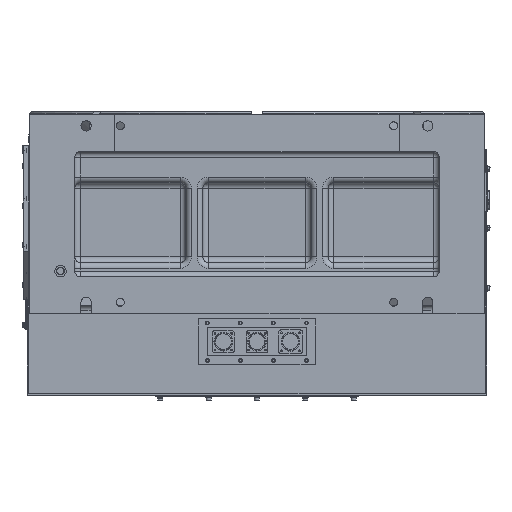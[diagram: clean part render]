
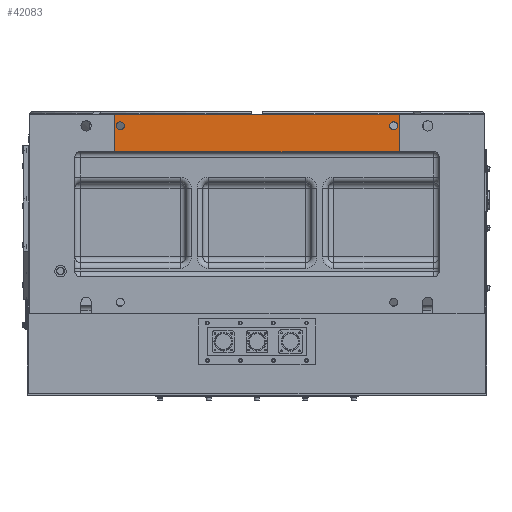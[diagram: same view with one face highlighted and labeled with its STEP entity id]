
A CAD part, front view. The second image highlights one B-rep face of the part: STEP entity #42083.
In plain terms, the highlighted planar face has unit normal (0, -1, 0).
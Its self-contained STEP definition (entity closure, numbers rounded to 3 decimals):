
#881 = DIRECTION ( 'NONE',  ( 0., 1., 0. ) ) ;
#1265 = DIRECTION ( 'NONE',  ( 0., 1., 0. ) ) ;
#1551 = EDGE_CURVE ( 'NONE', #19378, #10835, #24897, .T. ) ;
#3420 = LINE ( 'NONE', #15493, #7162 ) ;
#3483 = AXIS2_PLACEMENT_3D ( 'NONE', #32209, #44332, #24600 ) ;
#5796 = CARTESIAN_POINT ( 'NONE',  ( -240., -479.5, 28. ) ) ;
#6639 = CARTESIAN_POINT ( 'NONE',  ( 250., -479.5, 55. ) ) ;
#7162 = VECTOR ( 'NONE', #19960, 1000. ) ;
#7208 = CARTESIAN_POINT ( 'NONE',  ( 250., -479.5, -15. ) ) ;
#7321 = LINE ( 'NONE', #15724, #51588 ) ;
#7862 = CIRCLE ( 'NONE', #23811, 7. ) ;
#8959 = EDGE_CURVE ( 'NONE', #38344, #32236, #26850, .T. ) ;
#9067 = PLANE ( 'NONE',  #3483 ) ;
#9408 = DIRECTION ( 'NONE',  ( 0., 0., 1. ) ) ;
#9693 = CARTESIAN_POINT ( 'NONE',  ( -250., -479.5, 55. ) ) ;
#9804 = AXIS2_PLACEMENT_3D ( 'NONE', #33064, #1265, #9408 ) ;
#10354 = ORIENTED_EDGE ( 'NONE', *, *, #8959, .F. ) ;
#10798 = DIRECTION ( 'NONE',  ( -1., 0., 0. ) ) ;
#10835 = VERTEX_POINT ( 'NONE', #42108 ) ;
#11913 = DIRECTION ( 'NONE',  ( 0., 0., 1. ) ) ;
#12044 = EDGE_CURVE ( 'NONE', #32236, #37536, #3420, .T. ) ;
#12368 = DIRECTION ( 'NONE',  ( 0., 1., 0. ) ) ;
#15445 = VERTEX_POINT ( 'NONE', #5796 ) ;
#15493 = CARTESIAN_POINT ( 'NONE',  ( -250., -479.5, -15. ) ) ;
#15724 = CARTESIAN_POINT ( 'NONE',  ( -250., -479.5, 55. ) ) ;
#16070 = ORIENTED_EDGE ( 'NONE', *, *, #43771, .T. ) ;
#16177 = FACE_OUTER_BOUND ( 'NONE', #41803, .T. ) ;
#17763 = ORIENTED_EDGE ( 'NONE', *, *, #12044, .F. ) ;
#17865 = EDGE_LOOP ( 'NONE', ( #18341, #47713 ) ) ;
#18341 = ORIENTED_EDGE ( 'NONE', *, *, #1551, .T. ) ;
#18434 = VECTOR ( 'NONE', #10798, 1000. ) ;
#19378 = VERTEX_POINT ( 'NONE', #33749 ) ;
#19823 = DIRECTION ( 'NONE',  ( 0., 0., 1. ) ) ;
#19960 = DIRECTION ( 'NONE',  ( 0., 0., 1. ) ) ;
#21665 = EDGE_CURVE ( 'NONE', #15445, #41397, #7862, .T. ) ;
#22168 = ORIENTED_EDGE ( 'NONE', *, *, #30293, .T. ) ;
#22578 = CARTESIAN_POINT ( 'NONE',  ( -240., -479.5, 42. ) ) ;
#23431 = VECTOR ( 'NONE', #19823, 1000. ) ;
#23811 = AXIS2_PLACEMENT_3D ( 'NONE', #27634, #12368, #23951 ) ;
#23951 = DIRECTION ( 'NONE',  ( 0., 0., 1. ) ) ;
#24600 = DIRECTION ( 'NONE',  ( 0., 0., 1. ) ) ;
#24830 = EDGE_CURVE ( 'NONE', #10835, #19378, #33302, .T. ) ;
#24897 = CIRCLE ( 'NONE', #9804, 7. ) ;
#25848 = CARTESIAN_POINT ( 'NONE',  ( -250., -479.5, -10. ) ) ;
#26850 = LINE ( 'NONE', #46852, #18434 ) ;
#27634 = CARTESIAN_POINT ( 'NONE',  ( -240., -479.5, 35. ) ) ;
#27684 = EDGE_CURVE ( 'NONE', #38344, #47274, #47472, .T. ) ;
#28329 = DIRECTION ( 'NONE',  ( 0., 1., 0. ) ) ;
#30293 = EDGE_CURVE ( 'NONE', #47274, #37536, #7321, .T. ) ;
#32209 = CARTESIAN_POINT ( 'NONE',  ( -250., -479.5, -15. ) ) ;
#32236 = VERTEX_POINT ( 'NONE', #25848 ) ;
#33064 = CARTESIAN_POINT ( 'NONE',  ( 240., -479.5, 35. ) ) ;
#33302 = CIRCLE ( 'NONE', #41742, 7. ) ;
#33749 = CARTESIAN_POINT ( 'NONE',  ( 240., -479.5, 42. ) ) ;
#36238 = DIRECTION ( 'NONE',  ( 0., 0., 1. ) ) ;
#36957 = FACE_BOUND ( 'NONE', #17865, .T. ) ;
#37536 = VERTEX_POINT ( 'NONE', #9693 ) ;
#38344 = VERTEX_POINT ( 'NONE', #45370 ) ;
#40913 = FACE_BOUND ( 'NONE', #44052, .T. ) ;
#41397 = VERTEX_POINT ( 'NONE', #22578 ) ;
#41654 = ORIENTED_EDGE ( 'NONE', *, *, #21665, .T. ) ;
#41742 = AXIS2_PLACEMENT_3D ( 'NONE', #44269, #881, #11913 ) ;
#41803 = EDGE_LOOP ( 'NONE', ( #51243, #22168, #17763, #10354 ) ) ;
#42083 = ADVANCED_FACE ( 'NONE', ( #40913, #36957, #16177 ), #9067, .F. ) ;
#42108 = CARTESIAN_POINT ( 'NONE',  ( 240., -479.5, 28. ) ) ;
#42461 = AXIS2_PLACEMENT_3D ( 'NONE', #52051, #28329, #36238 ) ;
#43631 = DIRECTION ( 'NONE',  ( -1., 0., 0. ) ) ;
#43771 = EDGE_CURVE ( 'NONE', #41397, #15445, #51740, .T. ) ;
#44052 = EDGE_LOOP ( 'NONE', ( #16070, #41654 ) ) ;
#44269 = CARTESIAN_POINT ( 'NONE',  ( 240., -479.5, 35. ) ) ;
#44332 = DIRECTION ( 'NONE',  ( 0., 1., 0. ) ) ;
#45370 = CARTESIAN_POINT ( 'NONE',  ( 250., -479.5, -10. ) ) ;
#46852 = CARTESIAN_POINT ( 'NONE',  ( -320., -479.5, -10. ) ) ;
#47274 = VERTEX_POINT ( 'NONE', #6639 ) ;
#47472 = LINE ( 'NONE', #7208, #23431 ) ;
#47713 = ORIENTED_EDGE ( 'NONE', *, *, #24830, .T. ) ;
#51243 = ORIENTED_EDGE ( 'NONE', *, *, #27684, .T. ) ;
#51588 = VECTOR ( 'NONE', #43631, 1000. ) ;
#51740 = CIRCLE ( 'NONE', #42461, 7. ) ;
#52051 = CARTESIAN_POINT ( 'NONE',  ( -240., -479.5, 35. ) ) ;
